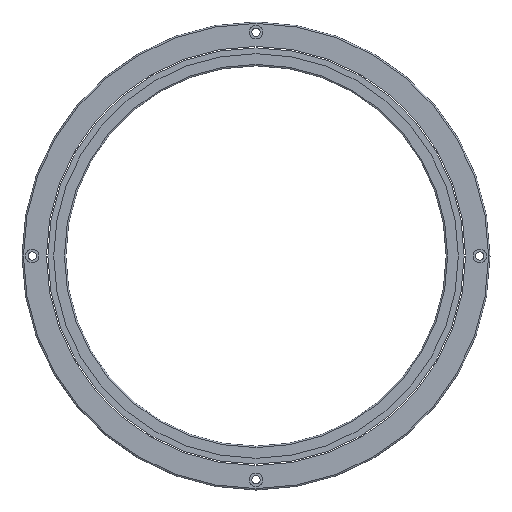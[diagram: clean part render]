
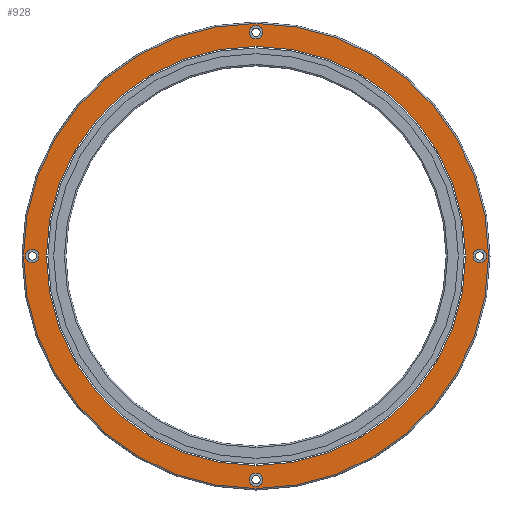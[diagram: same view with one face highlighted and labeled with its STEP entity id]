
A CAD part, front view. The second image highlights one B-rep face of the part: STEP entity #928.
In plain terms, the highlighted planar face has unit normal (0, -1, 0).
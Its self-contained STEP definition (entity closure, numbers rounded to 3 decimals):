
#43=CARTESIAN_POINT('',(0.,0.,0.));
#44=DIRECTION('',(0.,-1.,0.));
#45=DIRECTION('',(-1.,0.,0.));
#46=AXIS2_PLACEMENT_3D('',#43,#44,#45);
#48=CARTESIAN_POINT('',(0.,0.,0.));
#49=DIRECTION('',(0.,1.,0.));
#50=DIRECTION('',(-1.,0.,0.));
#51=AXIS2_PLACEMENT_3D('',#48,#49,#50);
#53=CARTESIAN_POINT('',(-76.5,0.,0.));
#54=DIRECTION('',(0.,1.,0.));
#55=DIRECTION('',(1.,0.,0.));
#56=AXIS2_PLACEMENT_3D('',#53,#54,#55);
#58=CARTESIAN_POINT('',(-76.5,0.,0.));
#59=DIRECTION('',(0.,1.,0.));
#60=DIRECTION('',(-1.,0.,0.));
#61=AXIS2_PLACEMENT_3D('',#58,#59,#60);
#63=CARTESIAN_POINT('',(0.,0.,76.5));
#64=DIRECTION('',(0.,1.,0.));
#65=DIRECTION('',(0.,0.,-1.));
#66=AXIS2_PLACEMENT_3D('',#63,#64,#65);
#68=CARTESIAN_POINT('',(0.,0.,76.5));
#69=DIRECTION('',(0.,1.,0.));
#70=DIRECTION('',(0.,0.,1.));
#71=AXIS2_PLACEMENT_3D('',#68,#69,#70);
#73=CARTESIAN_POINT('',(76.5,0.,0.));
#74=DIRECTION('',(0.,1.,0.));
#75=DIRECTION('',(-1.,0.,0.));
#76=AXIS2_PLACEMENT_3D('',#73,#74,#75);
#78=CARTESIAN_POINT('',(76.5,0.,0.));
#79=DIRECTION('',(0.,1.,0.));
#80=DIRECTION('',(1.,0.,0.));
#81=AXIS2_PLACEMENT_3D('',#78,#79,#80);
#83=CARTESIAN_POINT('',(0.,0.,-76.5));
#84=DIRECTION('',(0.,1.,0.));
#85=DIRECTION('',(0.,0.,1.));
#86=AXIS2_PLACEMENT_3D('',#83,#84,#85);
#88=CARTESIAN_POINT('',(0.,0.,-76.5));
#89=DIRECTION('',(0.,1.,0.));
#90=DIRECTION('',(0.,0.,-1.));
#91=AXIS2_PLACEMENT_3D('',#88,#89,#90);
#93=CARTESIAN_POINT('',(0.,0.,0.));
#94=DIRECTION('',(0.,1.,0.));
#95=DIRECTION('',(-1.,0.,0.));
#96=AXIS2_PLACEMENT_3D('',#93,#94,#95);
#98=CARTESIAN_POINT('',(0.,0.,0.));
#99=DIRECTION('',(0.,1.,0.));
#100=DIRECTION('',(1.,0.,0.));
#101=AXIS2_PLACEMENT_3D('',#98,#99,#100);
#751=CARTESIAN_POINT('',(-74.2,0.,0.));
#752=VERTEX_POINT('',#751);
#753=CARTESIAN_POINT('',(-78.8,0.,0.));
#754=VERTEX_POINT('',#753);
#763=CARTESIAN_POINT('',(0.,0.,74.2));
#764=VERTEX_POINT('',#763);
#765=CARTESIAN_POINT('',(0.,0.,78.8));
#766=VERTEX_POINT('',#765);
#775=CARTESIAN_POINT('',(74.2,0.,0.));
#776=VERTEX_POINT('',#775);
#777=CARTESIAN_POINT('',(78.8,0.,0.));
#778=VERTEX_POINT('',#777);
#787=CARTESIAN_POINT('',(0.,0.,-74.2));
#788=VERTEX_POINT('',#787);
#789=CARTESIAN_POINT('',(0.,0.,-78.8));
#790=VERTEX_POINT('',#789);
#808=CARTESIAN_POINT('',(-71.65,0.,0.));
#810=VERTEX_POINT('',#808);
#812=CARTESIAN_POINT('',(71.65,0.,0.));
#814=VERTEX_POINT('',#812);
#827=CARTESIAN_POINT('',(-79.5,0.,0.));
#828=CARTESIAN_POINT('',(79.5,0.,0.));
#829=VERTEX_POINT('',#827);
#830=VERTEX_POINT('',#828);
#889=CARTESIAN_POINT('',(0.,0.,0.));
#890=DIRECTION('',(0.,1.,0.));
#891=DIRECTION('',(1.,0.,0.));
#892=AXIS2_PLACEMENT_3D('',#889,#890,#891);
#893=PLANE('',#892);
#895=ORIENTED_EDGE('',*,*,#894,.T.);
#897=ORIENTED_EDGE('',*,*,#896,.T.);
#898=EDGE_LOOP('',(#895,#897));
#899=FACE_OUTER_BOUND('',#898,.F.);
#900=ORIENTED_EDGE('',*,*,#868,.F.);
#901=ORIENTED_EDGE('',*,*,#884,.F.);
#902=EDGE_LOOP('',(#900,#901));
#903=FACE_BOUND('',#902,.F.);
#905=ORIENTED_EDGE('',*,*,#904,.F.);
#907=ORIENTED_EDGE('',*,*,#906,.F.);
#908=EDGE_LOOP('',(#905,#907));
#909=FACE_BOUND('',#908,.F.);
#911=ORIENTED_EDGE('',*,*,#910,.F.);
#913=ORIENTED_EDGE('',*,*,#912,.F.);
#914=EDGE_LOOP('',(#911,#913));
#915=FACE_BOUND('',#914,.F.);
#917=ORIENTED_EDGE('',*,*,#916,.F.);
#919=ORIENTED_EDGE('',*,*,#918,.F.);
#920=EDGE_LOOP('',(#917,#919));
#921=FACE_BOUND('',#920,.F.);
#923=ORIENTED_EDGE('',*,*,#922,.T.);
#925=ORIENTED_EDGE('',*,*,#924,.F.);
#926=EDGE_LOOP('',(#923,#925));
#927=FACE_BOUND('',#926,.F.);
#47=CIRCLE('',#46,71.65);
#52=CIRCLE('',#51,71.65);
#57=CIRCLE('',#56,2.3);
#62=CIRCLE('',#61,2.3);
#67=CIRCLE('',#66,2.3);
#72=CIRCLE('',#71,2.3);
#77=CIRCLE('',#76,2.3);
#82=CIRCLE('',#81,2.3);
#87=CIRCLE('',#86,2.3);
#92=CIRCLE('',#91,2.3);
#97=CIRCLE('',#96,79.5);
#102=CIRCLE('',#101,79.5);
#868=EDGE_CURVE('',#752,#754,#57,.T.);
#884=EDGE_CURVE('',#754,#752,#62,.T.);
#894=EDGE_CURVE('',#829,#830,#97,.T.);
#896=EDGE_CURVE('',#830,#829,#102,.T.);
#904=EDGE_CURVE('',#764,#766,#67,.T.);
#906=EDGE_CURVE('',#766,#764,#72,.T.);
#910=EDGE_CURVE('',#776,#778,#77,.T.);
#912=EDGE_CURVE('',#778,#776,#82,.T.);
#916=EDGE_CURVE('',#788,#790,#87,.T.);
#918=EDGE_CURVE('',#790,#788,#92,.T.);
#922=EDGE_CURVE('',#810,#814,#47,.T.);
#924=EDGE_CURVE('',#810,#814,#52,.T.);
#928=ADVANCED_FACE('',(#899,#903,#909,#915,#921,#927),#893,.F.);
